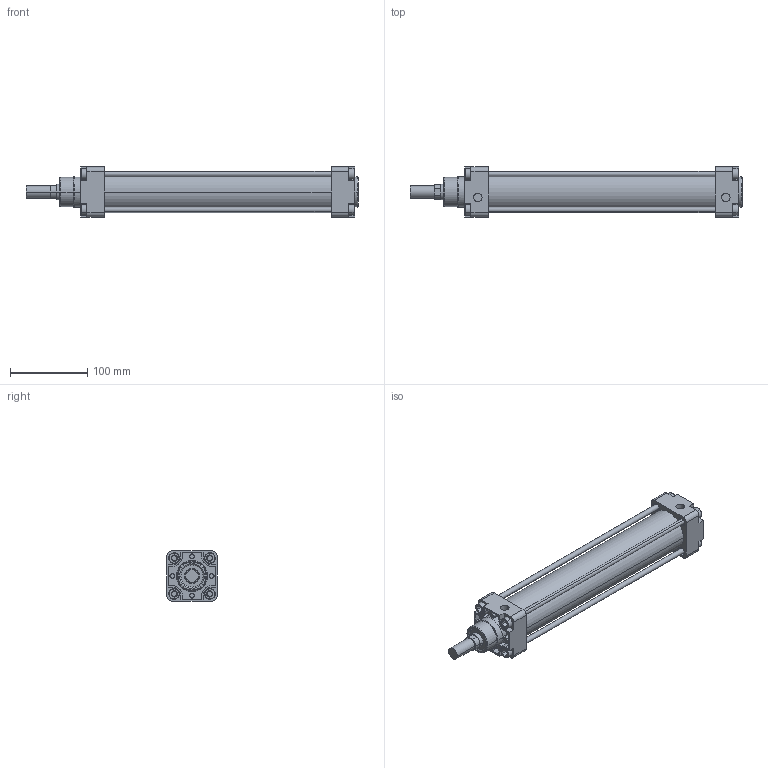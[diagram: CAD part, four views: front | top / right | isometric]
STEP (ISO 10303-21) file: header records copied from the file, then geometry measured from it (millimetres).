
FILE_DESCRIPTION(('CATIA V5 STEP Exchange'),'2;1');
FILE_NAME('D:\stp file for catalog\PNC\50\PNC 50-20-250.stp','2015-10-12T13:34:51+00:00',('none'),('none'),'Version 5-6 Release 2012','CATIA V5 STEP AP203','none');
FILE_SCHEMA(('CONFIG_CONTROL_DESIGN'));
Length unit declared in the file: millimetre
Products named in the file (1): PNC 50-20-250-00
Assembly tree (2 placements, depth 2):
  PNC 50-20-250-00
    #58
    #14116
Bounding box: 431 x 65 x 65 mm (x, y, z)
Volume: 564089.9 mm3; surface area: 222349.9 mm2
Topology: 6 solids, 6 shells, 536 faces, 1334 edges, 870 vertices
Faces by surface type: plane 324, cylinder 168, torus 26, extrusion 16, cone 2
Entity records: 14540 total; most frequent: CARTESIAN_POINT 2873, ORIENTED_EDGE 2668, DIRECTION 1792, EDGE_CURVE 1334, VECTOR 878, VERTEX_POINT 870, LINE 862, AXIS2_PLACEMENT_3D 661
